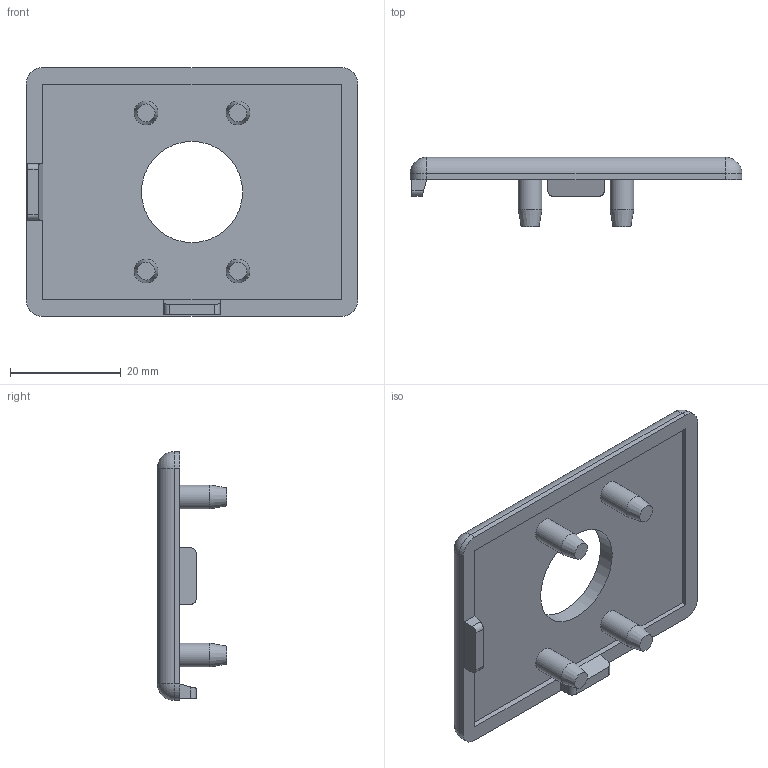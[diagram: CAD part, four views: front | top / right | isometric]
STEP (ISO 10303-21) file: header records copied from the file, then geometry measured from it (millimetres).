
FILE_DESCRIPTION(/* description */ ('STEP AP214'),/* implementation_level */ '2;1');
FILE_NAME(/* name */ '091083S01',/* time_stamp */ '2023-11-08T16:59:21+01:00',/* author */ ('License CC BY-ND 4.0'),/* organization */ ('CADENAS'),/* preprocessor_version */ 'ST-DEVELOPER v19.3',/* originating_system */ 'PARTsolutions',/* authorisation */ ' ');
FILE_SCHEMA (('AUTOMOTIVE_DESIGN {1 0 10303 214 3 1 1}'));
Length unit declared in the file: millimetre
Products named in the file (1): 091083S01
Bounding box: 60 x 12.5 x 45 mm (x, y, z)
Volume: 8138 mm3; surface area: 6369.9 mm2
Topology: 1 solids, 1 shells, 50 faces, 118 edges, 71 vertices
Faces by surface type: plane 25, cylinder 17, sphere 4, cone 4
Full cylindrical faces by diameter (mm): 4.3 x4, 18.3 x1
Entity records: 1340 total; most frequent: DIRECTION 240, CARTESIAN_POINT 217, ORIENTED_EDGE 200, EDGE_CURVE 100, AXIS2_PLACEMENT_3D 89, VERTEX_POINT 66, EDGE_LOOP 66, FACE_BOUND 66
